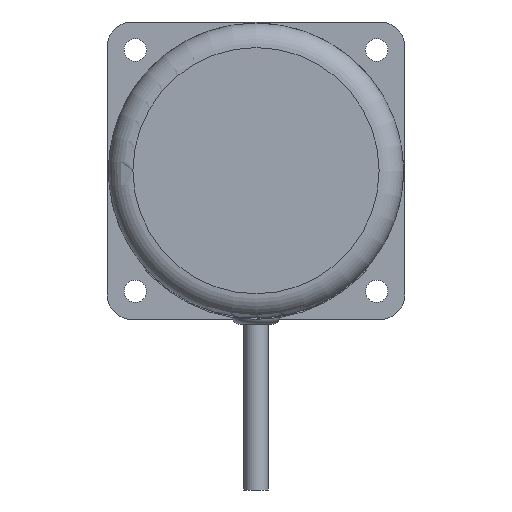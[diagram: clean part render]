
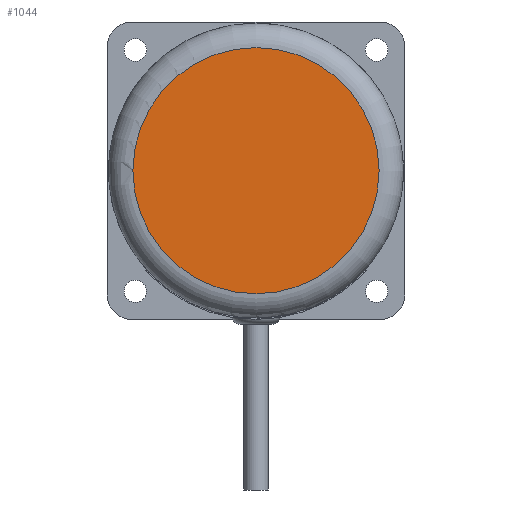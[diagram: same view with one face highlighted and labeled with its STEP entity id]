
A CAD part, left-side view. The second image highlights one B-rep face of the part: STEP entity #1044.
In plain terms, the highlighted planar face has unit normal (-1, 0, 0).
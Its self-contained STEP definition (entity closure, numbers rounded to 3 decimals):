
#947 = FACE_OUTER_BOUND ( 'NONE', #2680, .T. ) ;
#952 = CARTESIAN_POINT ( 'NONE',  ( -47., 0., 0. ) ) ;
#1044 = ADVANCED_FACE ( 'NONE', ( #947 ), #5942, .T. ) ;
#1492 = DIRECTION ( 'NONE',  ( 0., 0., 1. ) ) ;
#2230 = EDGE_CURVE ( 'NONE', #6168, #6168, #3326, .T. ) ;
#2245 = AXIS2_PLACEMENT_3D ( 'NONE', #952, #4766, #1492 ) ;
#2680 = EDGE_LOOP ( 'NONE', ( #6870 ) ) ;
#2731 = DIRECTION ( 'NONE',  ( -1., 0., 0. ) ) ;
#3326 = CIRCLE ( 'NONE', #2245, 25.25 ) ;
#4665 = AXIS2_PLACEMENT_3D ( 'NONE', #5542, #2731, #6544 ) ;
#4766 = DIRECTION ( 'NONE',  ( -1., 0., 0. ) ) ;
#5542 = CARTESIAN_POINT ( 'NONE',  ( -47., 0., 0. ) ) ;
#5942 = PLANE ( 'NONE',  #4665 ) ;
#6168 = VERTEX_POINT ( 'NONE', #6984 ) ;
#6544 = DIRECTION ( 'NONE',  ( 0., 0., 1. ) ) ;
#6870 = ORIENTED_EDGE ( 'NONE', *, *, #2230, .T. ) ;
#6984 = CARTESIAN_POINT ( 'NONE',  ( -47., 0., 25.25 ) ) ;
